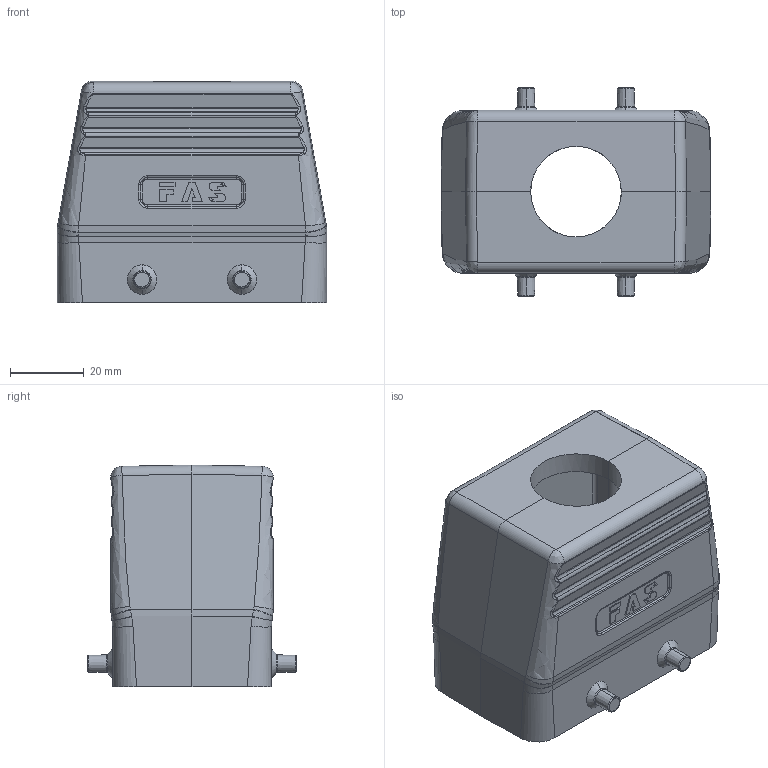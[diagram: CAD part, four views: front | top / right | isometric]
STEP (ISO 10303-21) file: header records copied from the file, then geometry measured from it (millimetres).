
FILE_DESCRIPTION (( 'STEP AP203' ), '1' );
FILE_NAME ('H10B-TG-M25 19-12-27.STEP', '2019-12-27T09:03:59', ( '' ), ( '' ), 'SwSTEP 2.0', 'SolidWorks 2016', '' );
FILE_SCHEMA (( 'CONFIG_CONTROL_DESIGN' ));
Length unit declared in the file: millimetre
Products named in the file (1): H10B-TG-M25 19-12-27
Bounding box: 73 x 56.4 x 60 mm (x, y, z)
Volume: 59873.3 mm3; surface area: 28379.1 mm2
Topology: 1 solids, 1 shells, 515 faces, 1259 edges, 774 vertices
Faces by surface type: plane 168, bspline 164, cylinder 143, cone 40
Entity records: 23990 total; most frequent: CARTESIAN_POINT 13219, ORIENTED_EDGE 2518, DIRECTION 1810, EDGE_CURVE 1259, VERTEX_POINT 774, AXIS2_PLACEMENT_3D 634, EDGE_LOOP 545, LINE 542
